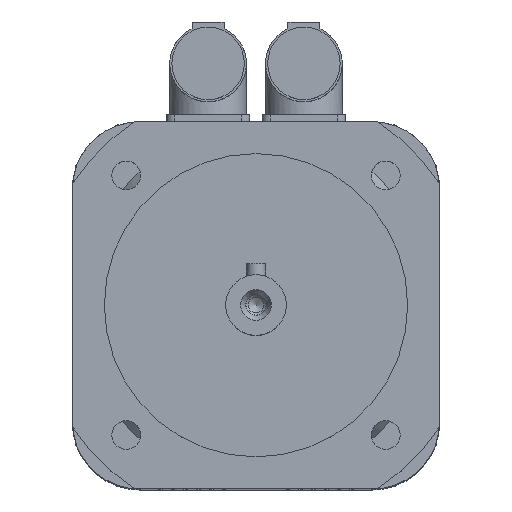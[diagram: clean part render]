
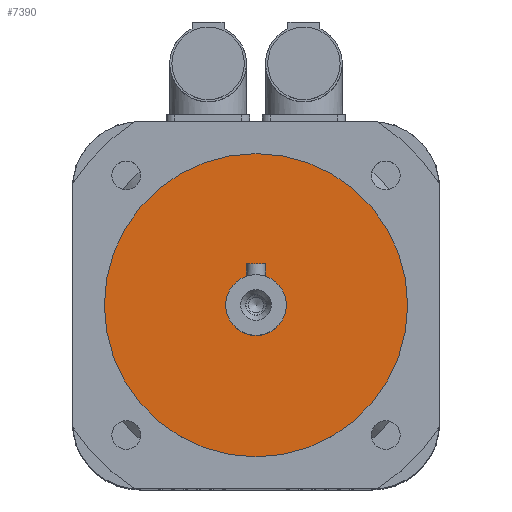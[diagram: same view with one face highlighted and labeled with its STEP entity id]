
A CAD part, top view. The second image highlights one B-rep face of the part: STEP entity #7390.
In plain terms, the highlighted planar face has unit normal (0, 0, 1).
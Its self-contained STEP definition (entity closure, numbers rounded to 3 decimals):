
#1603=PLANE('',#7889);
#2052=FACE_BOUND('',#2627,.T.);
#2146=FACE_OUTER_BOUND('',#2626,.T.);
#2626=EDGE_LOOP('',(#5423));
#2627=EDGE_LOOP('',(#5424));
#3132=CIRCLE('',#7888,9.5);
#3133=CIRCLE('',#7890,47.5);
#3541=VERTEX_POINT('',#11268);
#3542=VERTEX_POINT('',#11271);
#4274=EDGE_CURVE('',#3541,#3541,#3132,.T.);
#4275=EDGE_CURVE('',#3542,#3542,#3133,.T.);
#5423=ORIENTED_EDGE('',*,*,#4275,.F.);
#5424=ORIENTED_EDGE('',*,*,#4274,.T.);
#7390=ADVANCED_FACE('',(#2146,#2052),#1603,.T.);
#7888=AXIS2_PLACEMENT_3D('',#11269,#8858,#8859);
#7889=AXIS2_PLACEMENT_3D('',#11270,#8860,#8861);
#7890=AXIS2_PLACEMENT_3D('',#11272,#8862,#8863);
#8858=DIRECTION('center_axis',(0.,0.,-1.));
#8859=DIRECTION('ref_axis',(1.,0.,0.));
#8860=DIRECTION('center_axis',(0.,0.,1.));
#8861=DIRECTION('ref_axis',(1.,0.,0.));
#8862=DIRECTION('center_axis',(0.,0.,-1.));
#8863=DIRECTION('ref_axis',(1.,0.,0.));
#11268=CARTESIAN_POINT('',(0.,9.5,183.));
#11269=CARTESIAN_POINT('Origin',(0.,0.,183.));
#11270=CARTESIAN_POINT('Origin',(0.,47.5,183.));
#11271=CARTESIAN_POINT('',(0.,47.5,183.));
#11272=CARTESIAN_POINT('Origin',(0.,0.,183.));
